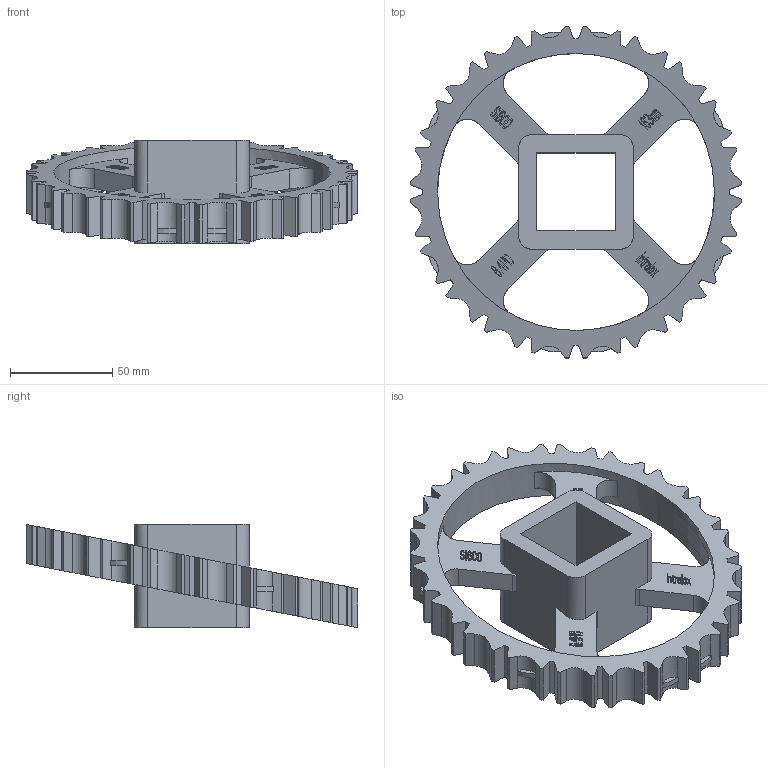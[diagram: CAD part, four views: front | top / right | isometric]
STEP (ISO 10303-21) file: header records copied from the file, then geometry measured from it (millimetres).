
FILE_DESCRIPTION((''),'2;1');
FILE_NAME('S1600_ANGLEEZCLEAN_64X15_40_SQ','2008-12-12T',('jmumphre'),(''),'PRO/ENGINEER BY PARAMETRIC TECHNOLOGY CORPORATION, 2008150','PRO/ENGINEER BY PARAMETRIC TECHNOLOGY CORPORATION, 2008150','');
FILE_SCHEMA(('CONFIG_CONTROL_DESIGN'));
Length unit declared in the file: inch
Products named in the file (1): S1600_ANGLEEZCLEAN_64X15_40_SQ
Bounding box: 161.93 x 161.93 x 50.29 mm (x, y, z)
Volume: 201212.6 mm3; surface area: 60467.5 mm2
Topology: 1 solids, 1 shells, 991 faces, 2877 edges, 1918 vertices
Faces by surface type: plane 929, cylinder 62
Entity records: 32653 total; most frequent: CARTESIAN_POINT 6560, ORIENTED_EDGE 5754, DIRECTION 4803, EDGE_CURVE 2877, VECTOR 2741, LINE 2741, VERTEX_POINT 1918, AXIS2_PLACEMENT_3D 1031
